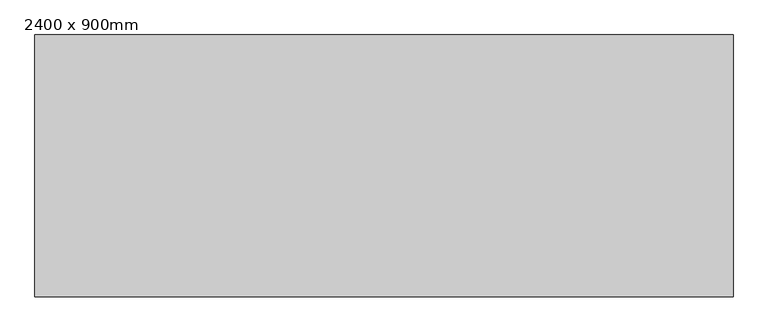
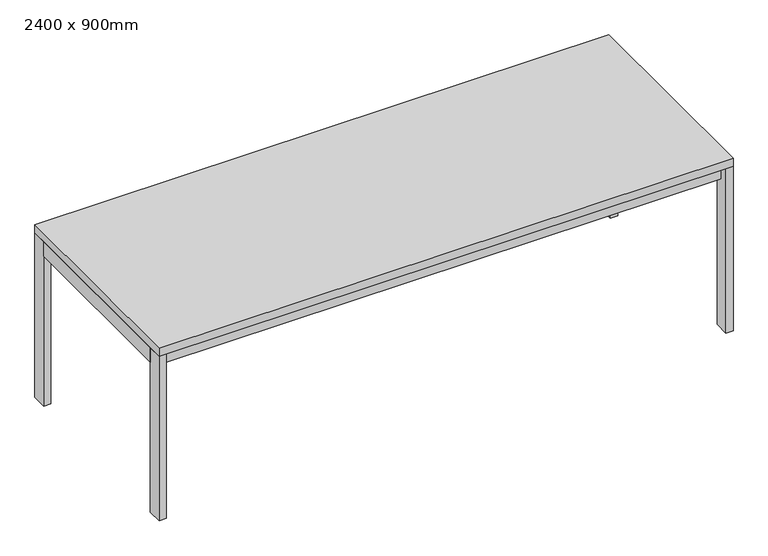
"""IFC4 building model written with IfcOpenShell, lengths in millimetres: furniture geometry, Table - Allround : 2400 x 900mm."""

from ifc_helpers import new_model, si_unit, frame, origin, origin_with_axes, place, context, project, spatial, polyline, outline, extrude, source, transform, mapped, element, save


def furniture_2400_x_900mm_03e2ad21(model_context):
    return source(origin(), model_context, "Body", "SweptSolid", [
        extrude(outline(polyline([(1170.0, 415.0), (1170.0, 389.6), (-1170.0, 389.6), (-1170.0, 415.0), (1170.0, 415.0)])), frame((0.0, 0.0, 662.0), z_axis=(0.0, 0.0, 1.0), x_axis=(1.0, 0.0, 0.0)), (0.0, 0.0, 1.0), 65.0),
        extrude(outline(polyline([(1170.0, -415.0), (-1170.0, -415.0), (-1170.0, -389.6), (1170.0, -389.6), (1170.0, -415.0)])), frame((0.0, 0.0, 662.0), z_axis=(0.0, 0.0, 1.0), x_axis=(1.0, 0.0, 0.0)), (0.0, 0.0, 1.0), 65.0),
        extrude(outline(polyline([(-1170.0, -386.5), (-1200.0, -386.5), (-1200.0, 386.5), (-1170.0, 386.5), (-1170.0, -386.5)])), frame((0.0, 0.0, 662.0), z_axis=(0.0, 0.0, 1.0), x_axis=(1.0, 0.0, 0.0)), (0.0, 0.0, 1.0), 65.0),
        extrude(outline(polyline([(1170.0, -386.5), (1170.0, 386.5), (1200.0, 386.5), (1200.0, -386.5), (1170.0, -386.5)])), frame((0.0, 0.0, 662.0), z_axis=(0.0, 0.0, 1.0), x_axis=(1.0, 0.0, 0.0)), (0.0, 0.0, 1.0), 65.0),
        extrude(outline(polyline([(1200.0, 450.0), (1200.0, -450.0), (-1200.0, -450.0), (-1200.0, 450.0), (1200.0, 450.0)])), frame((0.0, 0.0, 727.0), z_axis=(0.0, 0.0, 1.0), x_axis=(1.0, 0.0, 0.0)), (0.0, 0.0, 1.0), 35.0),
        extrude(outline(polyline([(-1170.0, 450.0), (-1170.0, 386.5), (-1200.0, 386.5), (-1200.0, 450.0), (-1170.0, 450.0)])), origin_with_axes(), (0.0, 0.0, 1.0), 727.0),
        extrude(outline(polyline([(1170.0, 450.0), (1200.0, 450.0), (1200.0, 386.5), (1170.0, 386.5), (1170.0, 450.0)])), origin_with_axes(), (0.0, 0.0, 1.0), 727.0),
        extrude(outline(polyline([(-1170.0, -450.0), (-1200.0, -450.0), (-1200.0, -386.5), (-1170.0, -386.5), (-1170.0, -450.0)])), origin_with_axes(), (0.0, 0.0, 1.0), 727.0),
        extrude(outline(polyline([(1170.0, -450.0), (1170.0, -386.5), (1200.0, -386.5), (1200.0, -450.0), (1170.0, -450.0)])), origin_with_axes(), (0.0, 0.0, 1.0), 727.0),
    ])


if __name__ == "__main__":
    model = new_model("IFC4")
    model_context = context("Model", 3, world=origin())
    ifc_project = project(units=[si_unit("LENGTHUNIT", "METRE", prefix="MILLI")], contexts=[model_context])
    site = spatial("IfcSite", under=ifc_project)
    building = spatial("IfcBuilding", under=site)
    placement = place(None, origin())
    furniture_2400_x_900mm_shape = furniture_2400_x_900mm_03e2ad21(model_context)
    element("IfcFurniture", 1, ObjectType="Table - Allround : 2400 x 900mm", at=placement, inside=building, context=model_context, shape_type="MappedRepresentation", body=[
        mapped(furniture_2400_x_900mm_shape, transform((0.0, 0.0, 0.0), x_axis=(1.0, 0.0, 0.0), y_axis=(0.0, 1.0, 0.0), z_axis=(0.0, 0.0, 1.0))),
    ])
    save(model, "model.ifc")
